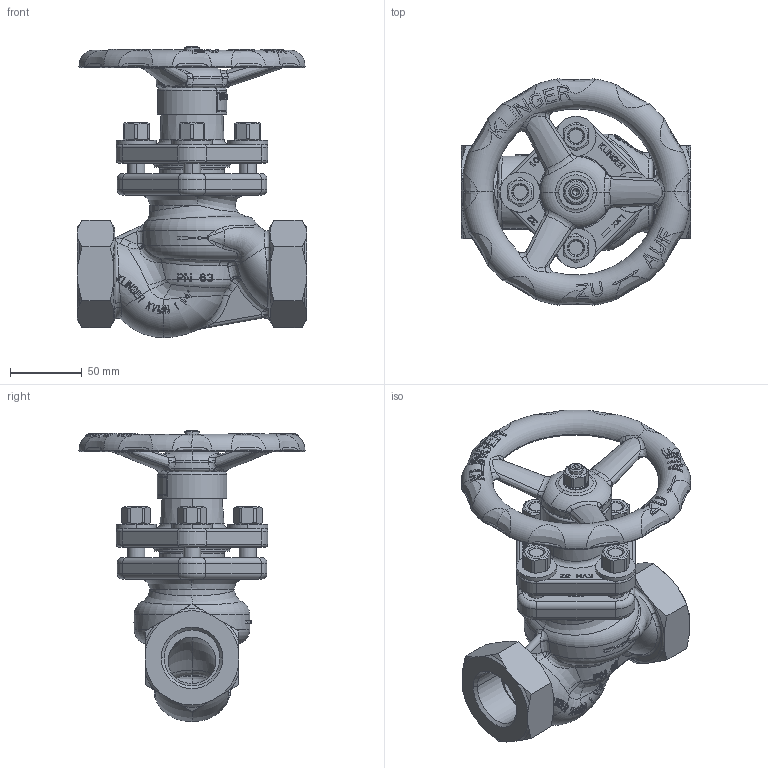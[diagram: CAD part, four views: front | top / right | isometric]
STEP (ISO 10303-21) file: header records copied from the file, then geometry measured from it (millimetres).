
FILE_DESCRIPTION((''),'2;1');
FILE_NAME('KVMN-G54S-----P063PGG_SW0001','2015-07-08T',('jeitlers'),('RAND'),'PRO/ENGINEER BY PARAMETRIC TECHNOLOGY CORPORATION, 2013410','PRO/ENGINEER BY PARAMETRIC TECHNOLOGY CORPORATION, 2013410','');
FILE_SCHEMA(('CONFIG_CONTROL_DESIGN'));
Products named in the file (1): KVMN-G54S-----P063PGG_SW0001
Bounding box: 160 x 157.91 x 203.3 mm (x, y, z)
Volume: 732471.3 mm3; surface area: 202197.3 mm2
Topology: 2 solids, 3 shells, 2690 faces, 7233 edges, 4638 vertices
Faces by surface type: plane 1673, bspline 385, cylinder 308, torus 174, cone 142, extrusion 6, sphere 2
Entity records: 162865 total; most frequent: CARTESIAN_POINT 100819, ORIENTED_EDGE 14458, DIRECTION 10593, EDGE_CURVE 7229, VERTEX_POINT 4638, AXIS2_PLACEMENT_3D 3573, VECTOR 3447, LINE 3441
